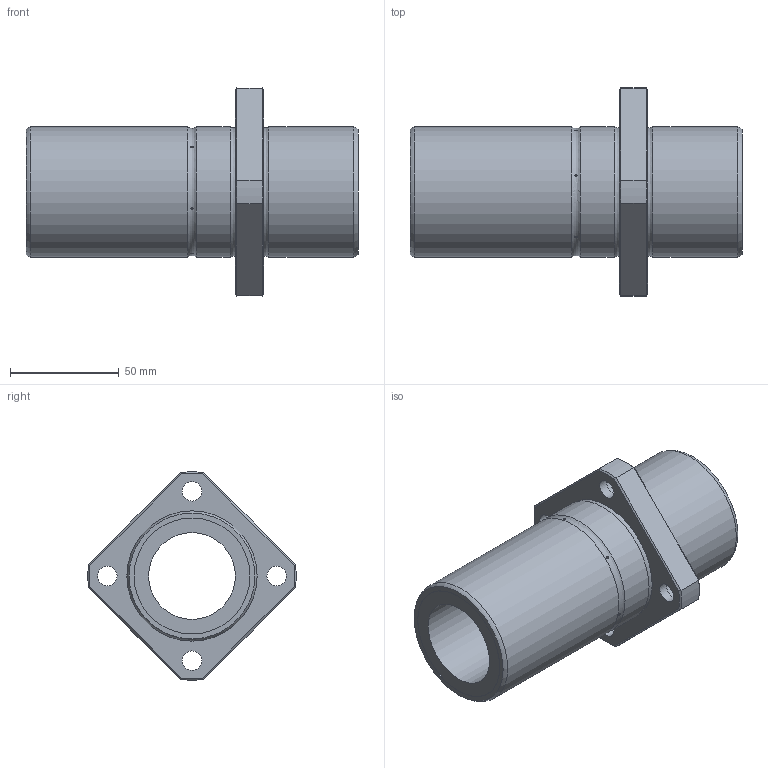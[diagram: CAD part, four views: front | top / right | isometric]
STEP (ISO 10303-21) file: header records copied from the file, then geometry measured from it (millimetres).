
FILE_DESCRIPTION((''),'2;1');
FILE_NAME('D:\製品 (図面)\カタログ用3D\リニアベアリング関連\STEP形式\LFDK-OH\LFDK40-OH.stp','2010-06-03T09:42:44',('Tsuchiya'),(''),'Autodesk Inventor 10','Autodesk Inventor 10','');
FILE_SCHEMA(('AUTOMOTIVE_DESIGN { 1 0 10303 214 1 1 1 1 }'));
Length unit declared in the file: millimetre
Products named in the file (1): LFDK40-OH
Bounding box: 153 x 95.93 x 95.93 mm (x, y, z)
Volume: 267506 mm3; surface area: 59074.5 mm2
Topology: 1 solids, 1 shells, 65 faces, 131 edges, 82 vertices
Faces by surface type: bspline 21, plane 18, cylinder 16, cone 8, torus 2
Full cylindrical faces by diameter (mm): 40 x1, 53.4 x2, 60 x3
Entity records: 2403 total; most frequent: CARTESIAN_POINT 1232, DIRECTION 210, ORIENTED_EDGE 200, EDGE_LOOP 114, EDGE_CURVE 100, AXIS2_PLACEMENT_3D 93, VERTEX_POINT 76, FACE_OUTER_BOUND 65
